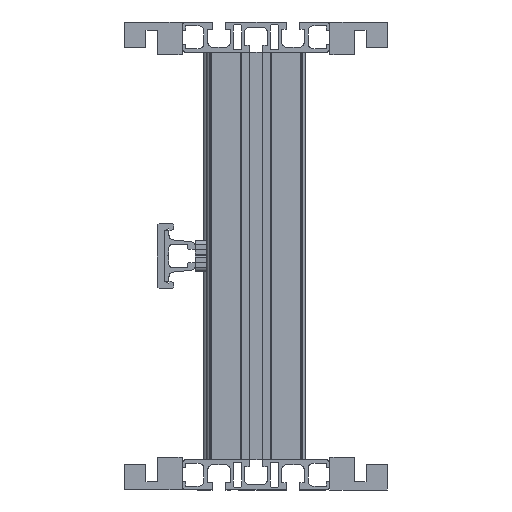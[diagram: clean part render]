
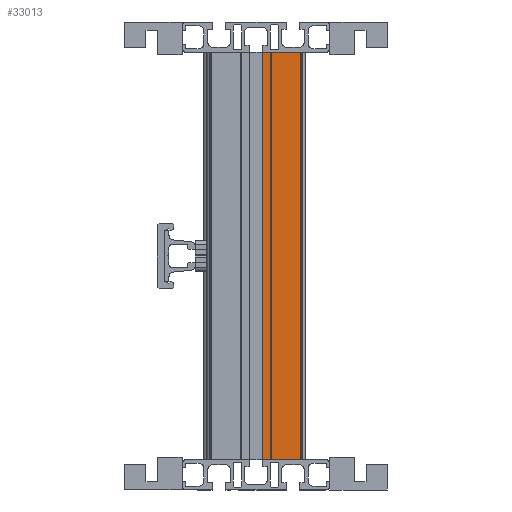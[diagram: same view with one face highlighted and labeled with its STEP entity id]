
A CAD part, left-side view. The second image highlights one B-rep face of the part: STEP entity #33013.
In plain terms, the highlighted planar face has unit normal (-1, 0, 0).
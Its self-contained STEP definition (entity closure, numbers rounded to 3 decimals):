
#489 = VERTEX_POINT ( 'NONE', #1502 ) ;
#532 = ORIENTED_EDGE ( 'NONE', *, *, #17536, .T. ) ;
#1057 = VECTOR ( 'NONE', #28704, 1000. ) ;
#1139 = EDGE_LOOP ( 'NONE', ( #532, #14380, #10696, #32308 ) ) ;
#1502 = CARTESIAN_POINT ( 'NONE',  ( -380., -72.5, -124. ) ) ;
#2790 = EDGE_CURVE ( 'NONE', #489, #21154, #27977, .T. ) ;
#3737 = VERTEX_POINT ( 'NONE', #6719 ) ;
#5176 = VECTOR ( 'NONE', #27656, 1000. ) ;
#5999 = FACE_OUTER_BOUND ( 'NONE', #1139, .T. ) ;
#6008 = LINE ( 'NONE', #9423, #5176 ) ;
#6719 = CARTESIAN_POINT ( 'NONE',  ( -380., -72.5, 124. ) ) ;
#7971 = EDGE_CURVE ( 'NONE', #21154, #19321, #19099, .T. ) ;
#8445 = CARTESIAN_POINT ( 'NONE',  ( -380., -49.15, -124. ) ) ;
#9423 = CARTESIAN_POINT ( 'NONE',  ( -380., -72.5, -124. ) ) ;
#10418 = LINE ( 'NONE', #14478, #16513 ) ;
#10696 = ORIENTED_EDGE ( 'NONE', *, *, #2790, .F. ) ;
#12191 = VECTOR ( 'NONE', #28120, 1000. ) ;
#14380 = ORIENTED_EDGE ( 'NONE', *, *, #7971, .F. ) ;
#14478 = CARTESIAN_POINT ( 'NONE',  ( -380., -72.5, 124. ) ) ;
#15840 = PLANE ( 'NONE',  #28454 ) ;
#15959 = DIRECTION ( 'NONE',  ( 0., 0., -1. ) ) ;
#16513 = VECTOR ( 'NONE', #22194, 1000. ) ;
#17536 = EDGE_CURVE ( 'NONE', #3737, #19321, #10418, .T. ) ;
#18447 = CARTESIAN_POINT ( 'NONE',  ( -380., -72.5, -124. ) ) ;
#19099 = LINE ( 'NONE', #27999, #12191 ) ;
#19321 = VERTEX_POINT ( 'NONE', #25419 ) ;
#21154 = VERTEX_POINT ( 'NONE', #8445 ) ;
#22024 = EDGE_CURVE ( 'NONE', #489, #3737, #6008, .T. ) ;
#22194 = DIRECTION ( 'NONE',  ( 0., 1., 0. ) ) ;
#22876 = CARTESIAN_POINT ( 'NONE',  ( -380., -72.5, -124. ) ) ;
#25419 = CARTESIAN_POINT ( 'NONE',  ( -380., -49.15, 124. ) ) ;
#27656 = DIRECTION ( 'NONE',  ( 0., 0., 1. ) ) ;
#27977 = LINE ( 'NONE', #22876, #1057 ) ;
#27999 = CARTESIAN_POINT ( 'NONE',  ( -380., -49.15, -124. ) ) ;
#28120 = DIRECTION ( 'NONE',  ( 0., 0., 1. ) ) ;
#28454 = AXIS2_PLACEMENT_3D ( 'NONE', #18447, #31543, #15959 ) ;
#28704 = DIRECTION ( 'NONE',  ( 0., 1., 0. ) ) ;
#31543 = DIRECTION ( 'NONE',  ( 1., 0., 0. ) ) ;
#32308 = ORIENTED_EDGE ( 'NONE', *, *, #22024, .T. ) ;
#33013 = ADVANCED_FACE ( 'NONE', ( #5999 ), #15840, .F. ) ;
